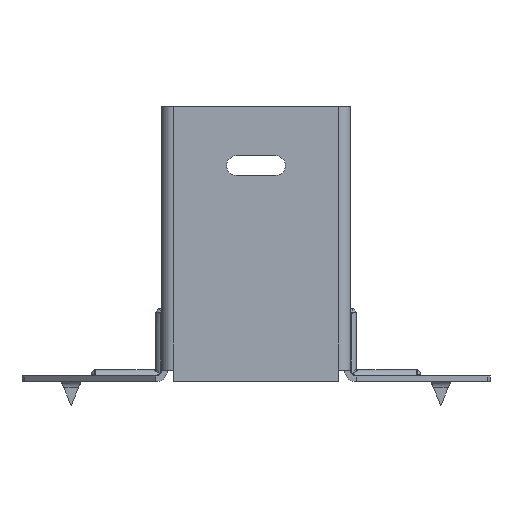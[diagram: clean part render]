
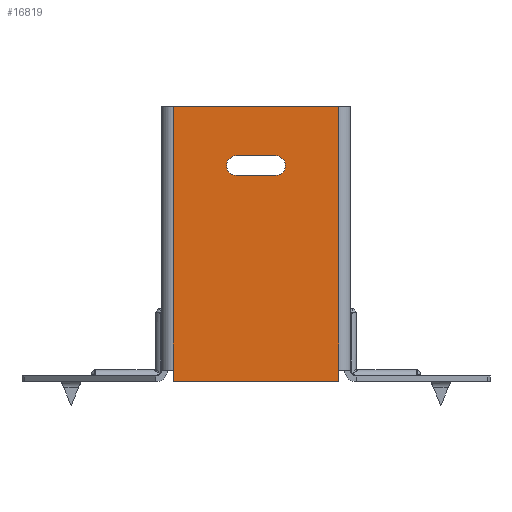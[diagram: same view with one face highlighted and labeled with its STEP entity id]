
A CAD part, front view. The second image highlights one B-rep face of the part: STEP entity #16819.
In plain terms, the highlighted planar face has unit normal (0, -1, 0).
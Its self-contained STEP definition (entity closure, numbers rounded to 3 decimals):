
#282 = LINE ( 'NONE', #20204, #22551 ) ;
#807 = EDGE_CURVE ( 'NONE', #3757, #5226, #282, .T. ) ;
#1158 = LINE ( 'NONE', #3992, #17057 ) ;
#1540 = AXIS2_PLACEMENT_3D ( 'NONE', #10299, #17350, #14161 ) ;
#1645 = VERTEX_POINT ( 'NONE', #15068 ) ;
#2868 = LINE ( 'NONE', #4920, #10148 ) ;
#2930 = CARTESIAN_POINT ( 'NONE',  ( -21., 0., 0. ) ) ;
#3163 = DIRECTION ( 'NONE',  ( 1., 0., 0. ) ) ;
#3267 = VECTOR ( 'NONE', #19630, 1000. ) ;
#3288 = EDGE_LOOP ( 'NONE', ( #6540, #13535, #15888, #18499, #8114, #18692 ) ) ;
#3484 = CARTESIAN_POINT ( 'NONE',  ( 0., 0., 0. ) ) ;
#3757 = VERTEX_POINT ( 'NONE', #6183 ) ;
#3949 = VERTEX_POINT ( 'NONE', #14042 ) ;
#3992 = CARTESIAN_POINT ( 'NONE',  ( -5., 0., -12.5 ) ) ;
#4092 = EDGE_CURVE ( 'NONE', #3949, #23061, #14149, .T. ) ;
#4378 = CIRCLE ( 'NONE', #18139, 2.5 ) ;
#4920 = CARTESIAN_POINT ( 'NONE',  ( 21., 0., -70. ) ) ;
#5226 = VERTEX_POINT ( 'NONE', #14446 ) ;
#5562 = CARTESIAN_POINT ( 'NONE',  ( 5., 0., -15. ) ) ;
#5763 = CARTESIAN_POINT ( 'NONE',  ( 21., 0., -70. ) ) ;
#5820 = EDGE_CURVE ( 'NONE', #6982, #1645, #22777, .T. ) ;
#6183 = CARTESIAN_POINT ( 'NONE',  ( -21., 0., -67. ) ) ;
#6307 = EDGE_CURVE ( 'NONE', #22489, #10648, #4378, .T. ) ;
#6376 = DIRECTION ( 'NONE',  ( 1., 0., 0. ) ) ;
#6540 = ORIENTED_EDGE ( 'NONE', *, *, #18177, .T. ) ;
#6982 = VERTEX_POINT ( 'NONE', #19778 ) ;
#8114 = ORIENTED_EDGE ( 'NONE', *, *, #22432, .T. ) ;
#8166 = FACE_BOUND ( 'NONE', #12064, .T. ) ;
#8500 = LINE ( 'NONE', #13856, #18526 ) ;
#8526 = DIRECTION ( 'NONE',  ( 0., 0., 1. ) ) ;
#8614 = VERTEX_POINT ( 'NONE', #17493 ) ;
#8714 = EDGE_CURVE ( 'NONE', #13054, #8614, #8500, .T. ) ;
#8892 = EDGE_CURVE ( 'NONE', #3949, #5226, #9917, .T. ) ;
#8982 = EDGE_CURVE ( 'NONE', #10648, #6982, #16309, .T. ) ;
#9262 = DIRECTION ( 'NONE',  ( 0., 0., 1. ) ) ;
#9334 = DIRECTION ( 'NONE',  ( 0., 1., 0. ) ) ;
#9578 = CARTESIAN_POINT ( 'NONE',  ( -22.5, 0., -70. ) ) ;
#9829 = ORIENTED_EDGE ( 'NONE', *, *, #17157, .T. ) ;
#9860 = AXIS2_PLACEMENT_3D ( 'NONE', #3484, #19448, #12228 ) ;
#9917 = LINE ( 'NONE', #9578, #21031 ) ;
#10148 = VECTOR ( 'NONE', #8526, 1000. ) ;
#10299 = CARTESIAN_POINT ( 'NONE',  ( -5., 0., -15. ) ) ;
#10648 = VERTEX_POINT ( 'NONE', #21304 ) ;
#11170 = CARTESIAN_POINT ( 'NONE',  ( 21., 0., -67. ) ) ;
#11366 = DIRECTION ( 'NONE',  ( 0., 0., -1. ) ) ;
#12064 = EDGE_LOOP ( 'NONE', ( #14843, #13915, #9829, #14432 ) ) ;
#12228 = DIRECTION ( 'NONE',  ( 0., 0., 1. ) ) ;
#13054 = VERTEX_POINT ( 'NONE', #21779 ) ;
#13154 = DIRECTION ( 'NONE',  ( -1., 0., 0. ) ) ;
#13535 = ORIENTED_EDGE ( 'NONE', *, *, #807, .T. ) ;
#13856 = CARTESIAN_POINT ( 'NONE',  ( -22.5, 0., 0. ) ) ;
#13915 = ORIENTED_EDGE ( 'NONE', *, *, #5820, .T. ) ;
#14042 = CARTESIAN_POINT ( 'NONE',  ( 21., 0., -70. ) ) ;
#14149 = LINE ( 'NONE', #5763, #3267 ) ;
#14161 = DIRECTION ( 'NONE',  ( 0., 0., 1. ) ) ;
#14432 = ORIENTED_EDGE ( 'NONE', *, *, #6307, .T. ) ;
#14446 = CARTESIAN_POINT ( 'NONE',  ( -21., 0., -70. ) ) ;
#14636 = VECTOR ( 'NONE', #18205, 1000. ) ;
#14843 = ORIENTED_EDGE ( 'NONE', *, *, #8982, .T. ) ;
#14936 = CARTESIAN_POINT ( 'NONE',  ( -5., 0., -17.5 ) ) ;
#15068 = CARTESIAN_POINT ( 'NONE',  ( -5., 0., -12.5 ) ) ;
#15888 = ORIENTED_EDGE ( 'NONE', *, *, #8892, .F. ) ;
#16309 = LINE ( 'NONE', #14936, #14636 ) ;
#16819 = ADVANCED_FACE ( 'NONE', ( #8166, #20961 ), #21176, .F. ) ;
#17057 = VECTOR ( 'NONE', #6376, 1000. ) ;
#17157 = EDGE_CURVE ( 'NONE', #1645, #22489, #1158, .T. ) ;
#17198 = DIRECTION ( 'NONE',  ( 0., 0., -1. ) ) ;
#17350 = DIRECTION ( 'NONE',  ( 0., 1., 0. ) ) ;
#17493 = CARTESIAN_POINT ( 'NONE',  ( 21., 0., 0. ) ) ;
#18139 = AXIS2_PLACEMENT_3D ( 'NONE', #5562, #9334, #9262 ) ;
#18177 = EDGE_CURVE ( 'NONE', #13054, #3757, #19523, .T. ) ;
#18205 = DIRECTION ( 'NONE',  ( -1., 0., 0. ) ) ;
#18499 = ORIENTED_EDGE ( 'NONE', *, *, #4092, .T. ) ;
#18526 = VECTOR ( 'NONE', #3163, 1000. ) ;
#18692 = ORIENTED_EDGE ( 'NONE', *, *, #8714, .F. ) ;
#19448 = DIRECTION ( 'NONE',  ( 0., 1., 0. ) ) ;
#19488 = CARTESIAN_POINT ( 'NONE',  ( 5., 0., -12.5 ) ) ;
#19523 = LINE ( 'NONE', #2930, #20096 ) ;
#19630 = DIRECTION ( 'NONE',  ( 0., 0., 1. ) ) ;
#19778 = CARTESIAN_POINT ( 'NONE',  ( -5., 0., -17.5 ) ) ;
#20096 = VECTOR ( 'NONE', #17198, 1000. ) ;
#20204 = CARTESIAN_POINT ( 'NONE',  ( -21., 0., 0. ) ) ;
#20961 = FACE_OUTER_BOUND ( 'NONE', #3288, .T. ) ;
#21031 = VECTOR ( 'NONE', #13154, 1000. ) ;
#21176 = PLANE ( 'NONE',  #9860 ) ;
#21304 = CARTESIAN_POINT ( 'NONE',  ( 5., 0., -17.5 ) ) ;
#21779 = CARTESIAN_POINT ( 'NONE',  ( -21., 0., 0. ) ) ;
#22432 = EDGE_CURVE ( 'NONE', #23061, #8614, #2868, .T. ) ;
#22489 = VERTEX_POINT ( 'NONE', #19488 ) ;
#22551 = VECTOR ( 'NONE', #11366, 1000. ) ;
#22777 = CIRCLE ( 'NONE', #1540, 2.5 ) ;
#23061 = VERTEX_POINT ( 'NONE', #11170 ) ;
